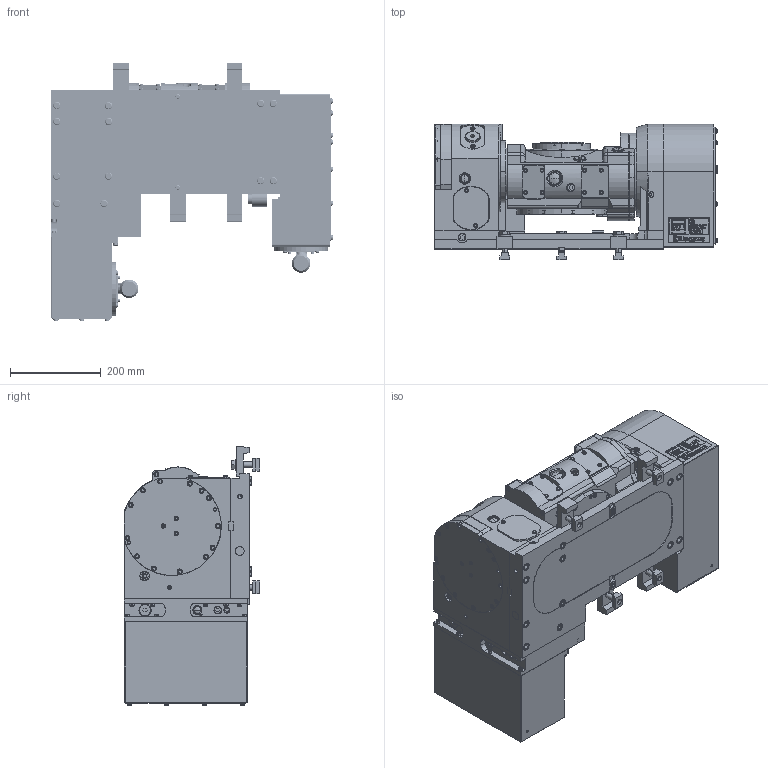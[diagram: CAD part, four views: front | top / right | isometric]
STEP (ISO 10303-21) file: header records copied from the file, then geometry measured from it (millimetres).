
FILE_DESCRIPTION (( 'STEP AP214' ), '1' );
FILE_NAME ('RKT180V.STEP', '2019-11-07T01:37:41', ( '' ), ( '' ), 'SwSTEP 2.0', 'SolidWorks 2017', '' );
FILE_SCHEMA (( 'AUTOMOTIVE_DESIGN' ));
Length unit declared in the file: millimetre
Products named in the file (24): シリンダ(61E8332661)_OV; RKT180V; ボデー(61E1139924)_OV; BASE_RKT180V-00; キタガワシール; 働乕僽儖N29ZSZ2562; コネクタプレート(61E4513331); モータケース(61E2828520)RKT180VR00; モータケース(61E2731912)RKT180V-00; ガイドブロック(61M4198752); プレート(61E2731594)_OV; BASE_RKT180A00; グリスニップル A M6; チェックバルブ AKB01A-01S-×435; オイルゲージ 207; オイルゲージ 257; ササエ(61E2729432)_OV; CLAMPING PARTS(61E4260413)RS012D; ギヤーボックス(61E1140115)_OV; ローラギアカムユニット(61E8264231)_OV; 僔儕儞僟T(61E2772172)_OV; BODY_RKT180A00; ベース(61E1139933)_OV; 僆僀儖僄儗儊儞僩丂俥俤亅侾俆丂僀儅僆
Assembly tree (30 placements, depth 4):
  RKT180V
    BASE_RKT180V-00
      BASE_RKT180A00
        ベース(61E1139933)_OV
        僔儕儞僟T(61E2772172)_OV
        ギヤーボックス(61E1140115)_OV
        ササエ(61E2729432)_OV
        オイルゲージ 257
        オイルゲージ 207
        チェックバルブ AKB01A-01S-×435
        グリスニップル A M6
      プレート(61E2731594)_OV
      ガイドブロック(61M4198752)  x2
      モータケース(61E2731912)RKT180V-00
      モータケース(61E2828520)RKT180VR00
      コネクタプレート(61E4513331)  x2
      働乕僽儖N29ZSZ2562  x2
      キタガワシール
    BODY_RKT180A00
      ボデー(61E1139924)_OV
      シリンダ(61E8332661)_OV
      僆僀儖僄儗儊儞僩丂俥俤亅侾俆丂僀儅僆
      オイルゲージ 207
    ローラギアカムユニット(61E8264231)_OV
    CLAMPING PARTS(61E4260413)RS012D  x4
Bounding box: 620.8 x 298.6 x 569.8 mm (x, y, z)
Volume: 43368150.7 mm3; surface area: 2274216.7 mm2
Topology: 27 solids, 32 shells, 4918 faces, 12225 edges, 7900 vertices
Faces by surface type: plane 3089, cylinder 1269, cone 402, torus 121, bspline 23, sphere 14
Entity records: 160102 total; most frequent: CARTESIAN_POINT 27373, DIRECTION 23176, ORIENTED_EDGE 22656, EDGE_CURVE 11328, LINE 8334, VECTOR 8334, AXIS2_PLACEMENT_3D 7421, VERTEX_POINT 7394
